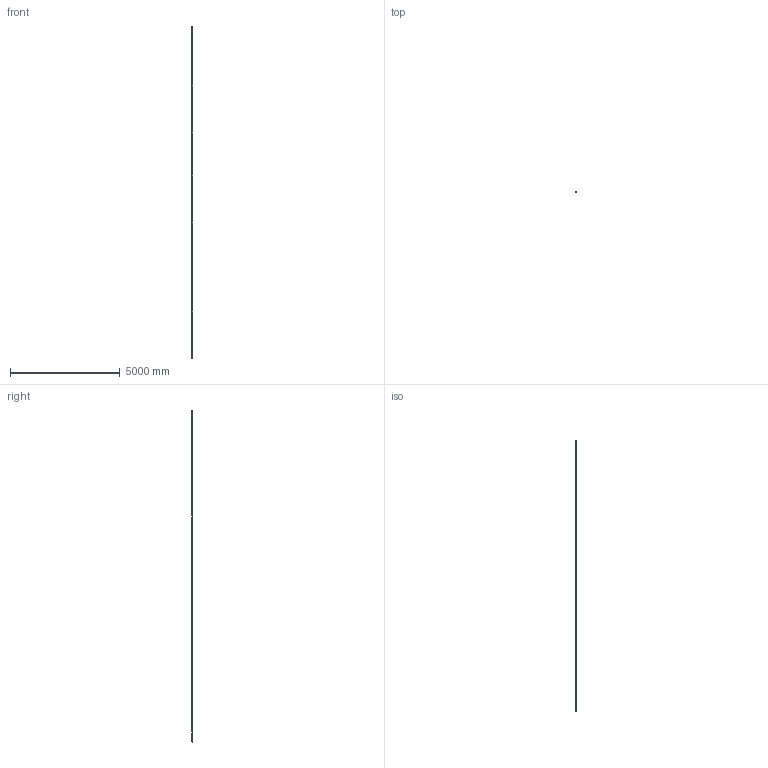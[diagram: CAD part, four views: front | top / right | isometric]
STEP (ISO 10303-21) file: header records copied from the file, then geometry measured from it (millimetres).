
FILE_DESCRIPTION(('Creo Elements/Direct Modeling STEP Export'),'2;1');
FILE_NAME('L-148.stp','2011-11-29T13:13:34',(''),(''),'Creo Elements/Direct Modeling STEP processor for AP214 (Solid Model)','Creo Elements/Direct Modeling 17.0C 05-Feb-2011 (C) Parametric Technology GmbH','');
FILE_SCHEMA(('AUTOMOTIVE_DESIGN { 1 0 10303 214 1 1 1 1 }'));
Length unit declared in the file: millimetre
Products named in the file (5): Modulos_intermedio_(FL-14).4.2.2; CABEZA; Modulo_der_(22-ET); Modulo_izq_(L-KT); L-148
Assembly tree (11 placements, depth 2):
  L-148
    Modulo_izq_(L-KT)
    Modulos_intermedio_(FL-14).4.2.2  x8
    Modulo_der_(22-ET)
    CABEZA
Bounding box: 51.5 x 87.95 x 15149.1 mm (x, y, z)
Volume: 32237246.4 mm3; surface area: 4462909.8 mm2
Topology: 32 solids, 128 shells, 7223 faces, 20063 edges, 12849 vertices
Faces by surface type: cylinder 3188, plane 2787, cone 538, torus 343, bspline 251, extrusion 90, sphere 26
Entity records: 131512 total; most frequent: CARTESIAN_POINT 38525, ORIENTED_EDGE 19626, DIRECTION 17578, EDGE_CURVE 9793, VERTEX_POINT 6351, AXIS2_PLACEMENT_3D 6260, VECTOR 5058, LINE 5038
